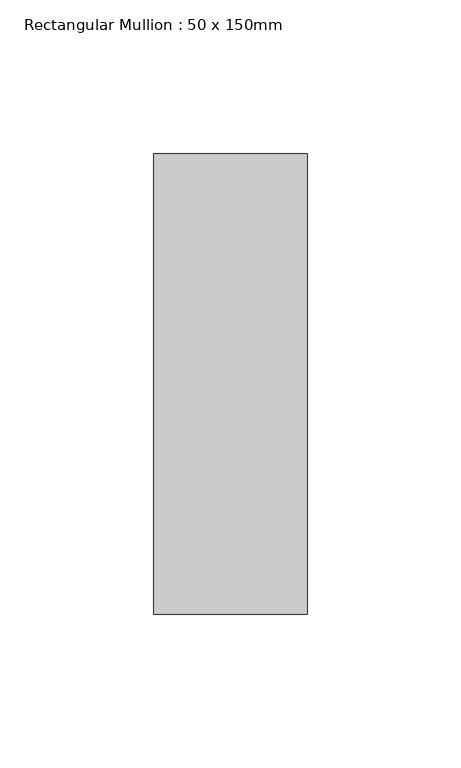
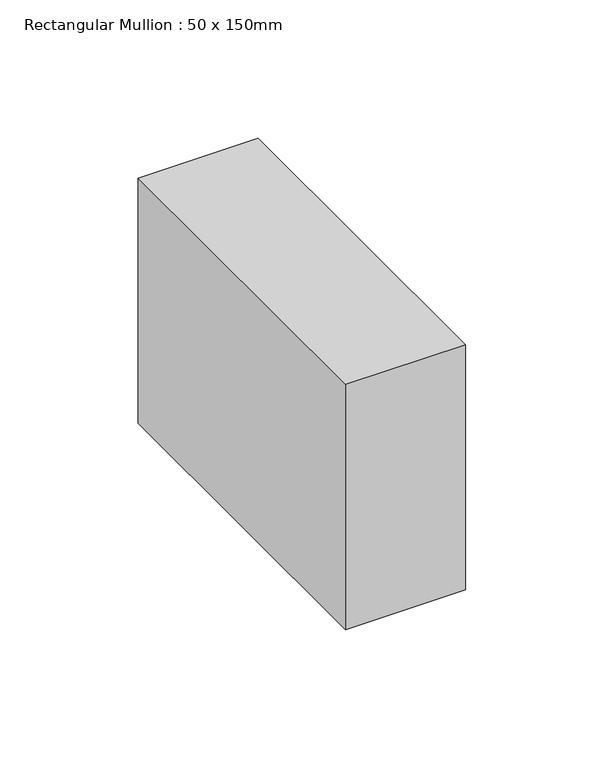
"""IFC4 building model written with IfcOpenShell, lengths in millimetres: member geometry, Rectangular Mullion : 50 x 150mm."""

import ifcopenshell
import ifcopenshell.guid

model = None  # the IFC model being written
_history = None  # IfcOwnerHistory: only IFC2X3 demands one
_inside = {}  # id of a spatial element -> (the spatial element, [elements in it])
_under = {}  # id of a project, library or spatial element -> (it, [spatial elements below it])
_declared = {}  # id of a project -> (the project, [libraries it declares])
_typed = {}  # id of a type object -> (the type object, [elements of that type])
_made_of = {}  # id of a material, layer set ... -> (it, [elements and type objects made of it])


def new_model(schema):
    """Start an empty IFC model of exactly this schema.

    Asked for "IFC4X3", IfcOpenShell would pick the latest addendum, in which some entities
    have other attributes; the version numbers below select the first issue.
    IFC2X3 requires an IfcOwnerHistory on every rooted entity: one is made here for all.
    """
    global model, _history
    if schema == "IFC4X3":
        model = ifcopenshell.file(schema_version=(4, 3, 0, 0))
    else:
        model = ifcopenshell.file(schema=schema)
    _inside.clear()
    _under.clear()
    _declared.clear()
    _typed.clear()
    _made_of.clear()
    _history = None
    if model.schema == "IFC2X3":
        org = make("IfcOrganization", Name="unknown")
        user = make(
            "IfcPersonAndOrganization",
            ThePerson=make("IfcPerson", FamilyName="unknown"),
            TheOrganization=org,
        )
        app = make(
            "IfcApplication",
            ApplicationDeveloper=org,
            Version="unknown",
            ApplicationFullName="unknown",
            ApplicationIdentifier="unknown",
        )
        _history = make(
            "IfcOwnerHistory",
            OwningUser=user,
            OwningApplication=app,
            ChangeAction="ADDED",
            CreationDate=0,
        )
    return model


def make(cls, **values):
    """One entity of the class cls with the attributes given. An attribute that is None is left unset."""
    return model.create_entity(
        cls, **{name: value for name, value in values.items() if value is not None}
    )


def rooted(cls, **values):
    """An entity with a GlobalId (a new one), such as an element, a storey or a relation."""
    return make(cls, GlobalId=ifcopenshell.guid.new(), OwnerHistory=_history, **values)


def si_unit(unit_type, name, prefix=None):
    """IfcSIUnit, for example si_unit("LENGTHUNIT", "METRE", prefix="MILLI")."""
    return make("IfcSIUnit", UnitType=unit_type, Prefix=prefix, Name=name)


def assignment(units):
    """IfcUnitAssignment: the units of a project."""
    return None if units is None else make("IfcUnitAssignment", Units=units)


def point(xyz):
    """IfcCartesianPoint."""
    return None if xyz is None else make("IfcCartesianPoint", Coordinates=xyz)


def direction(xyz):
    """IfcDirection."""
    return None if xyz is None else make("IfcDirection", DirectionRatios=xyz)


def frame(location, z_axis=None, x_axis=None):
    """IfcAxis2Placement3D, a coordinate frame: its origin and axes. An axis left out is left unset."""
    return make(
        "IfcAxis2Placement3D",
        Location=point(location),
        Axis=direction(z_axis),
        RefDirection=direction(x_axis),
    )


def origin():
    """The frame at (0, 0, 0) with its axes left unset."""
    return frame((0.0, 0.0, 0.0))


def place(relative_to, where):
    """IfcLocalPlacement: puts the frame where relative to a parent placement (None: the world)."""
    return make(
        "IfcLocalPlacement", PlacementRelTo=relative_to, RelativePlacement=where
    )


def context(
    kind, dimensions, precision=None, world=None, true_north=None, identifier=None
):
    """IfcGeometricRepresentationContext, for example the 3D "Model" context."""
    return make(
        "IfcGeometricRepresentationContext",
        ContextIdentifier=identifier,
        ContextType=kind,
        CoordinateSpaceDimension=dimensions,
        Precision=precision,
        WorldCoordinateSystem=world,
        TrueNorth=true_north,
    )


def project(units=None, contexts=None):
    """IfcProject with its units and contexts."""
    return rooted(
        "IfcProject",
        Name="project",
        RepresentationContexts=contexts,
        UnitsInContext=assignment(units),
    )


def spatial(cls, under=None, at=None, **own):
    """A site, building, storey or space (cls), placed at a placement, below another one or the project."""
    s = rooted(cls, ObjectPlacement=at, **own)
    if under is not None:
        _under.setdefault(under.id(), (under, []))[1].append(s)
    return s


def polyline(points):
    """IfcPolyline through the points."""
    return make("IfcPolyline", Points=[point(p) for p in points])


def outline(outer, holes=None, kind="AREA"):
    """IfcArbitraryClosedProfileDef: a profile drawn as a closed curve; with holes, ...WithVoids."""
    if holes is None:
        return make("IfcArbitraryClosedProfileDef", ProfileType=kind, OuterCurve=outer)
    return make(
        "IfcArbitraryProfileDefWithVoids",
        ProfileType=kind,
        OuterCurve=outer,
        InnerCurves=holes,
    )


def extrude(swept, where, along, depth):
    """IfcExtrudedAreaSolid: the profile swept, set in the frame where, extruded along a direction by depth."""
    return make(
        "IfcExtrudedAreaSolid",
        SweptArea=swept,
        Position=where,
        ExtrudedDirection=direction(along),
        Depth=depth,
    )


def shape(context_of_items, identifier, shape_type, items):
    """IfcShapeRepresentation: the items that make up one representation, for example the "Body"."""
    return make(
        "IfcShapeRepresentation",
        ContextOfItems=context_of_items,
        RepresentationIdentifier=identifier,
        RepresentationType=shape_type,
        Items=items,
    )


def source(mapping_origin, context_of_items, identifier, shape_type, items):
    """IfcRepresentationMap: a shape defined once, which mapped items show again and again."""
    return make(
        "IfcRepresentationMap",
        MappingOrigin=mapping_origin,
        MappedRepresentation=shape(context_of_items, identifier, shape_type, items),
    )


def transform(
    local_origin,
    x_axis=None,
    y_axis=None,
    z_axis=None,
    scale=None,
    scale2=None,
    scale3=None,
    uniform=True,
):
    """IfcCartesianTransformationOperator3D, or its non-uniform kind. x_axis, y_axis, z_axis: its Axis1, 2, 3."""
    if uniform:
        return make(
            "IfcCartesianTransformationOperator3D",
            Axis1=direction(x_axis),
            Axis2=direction(y_axis),
            LocalOrigin=point(local_origin),
            Scale=scale,
            Axis3=direction(z_axis),
        )
    return make(
        "IfcCartesianTransformationOperator3DnonUniform",
        Axis1=direction(x_axis),
        Axis2=direction(y_axis),
        LocalOrigin=point(local_origin),
        Scale=scale,
        Axis3=direction(z_axis),
        Scale2=scale2,
        Scale3=scale3,
    )


def mapped(mapping_source, mapping_target):
    """IfcMappedItem: shows the shape of a source again, moved by a transform."""
    return make(
        "IfcMappedItem", MappingSource=mapping_source, MappingTarget=mapping_target
    )


def made_of(thing, what):
    """Note that an element or type object is made of a material, layer set ...; save() writes the relation."""
    if what is not None:
        _made_of.setdefault(what.id(), (what, []))[1].append(thing)
    return thing


def element(
    cls,
    number,
    at=None,
    inside=None,
    cuts=None,
    type_object=None,
    material=None,
    context=None,
    identifier="Body",
    shape_type=None,
    held_by="IfcProductDefinitionShape",
    body=None,
    shapes=None,
    **own,
):
    """One element of the class cls, such as IfcWall. Its Tag is "e" and its number.

    at: its placement. inside: the storey or other place that contains it. cuts: it is an
    opening in that element (IfcRelVoidsElement). A single representation is given by context,
    identifier, shape_type and body (its items); several are given by shapes. held_by: the class
    of the entity that holds the representations. save() writes the other relations.
    """
    e = rooted(cls, Tag="e%d" % number, ObjectPlacement=at, **own)
    if body is not None:
        shapes = [shape(context, identifier, shape_type, body)]
    if shapes is not None:
        e.Representation = make(held_by, Representations=shapes)
    if inside is not None:
        _inside.setdefault(inside.id(), (inside, []))[1].append(e)
    if cuts is not None:
        rooted(
            "IfcRelVoidsElement", RelatingBuildingElement=cuts, RelatedOpeningElement=e
        )
    if type_object is not None:
        _typed.setdefault(type_object.id(), (type_object, []))[1].append(e)
    return made_of(e, material)


def aggregate(whole, parts):
    """IfcRelAggregates: a whole, such as a stair, and the parts it consists of."""
    return rooted("IfcRelAggregates", RelatingObject=whole, RelatedObjects=parts)


def save(model, path):
    """Write the relations noted so far, then the file.

    IfcRelAggregates (storeys below a building ...), IfcRelContainedInSpatialStructure (elements
    in a storey), IfcRelDefinesByType, IfcRelAssociatesMaterial and IfcRelDeclares: one each for
    every whole, place, type object, material and project.
    """
    for whole, parts in _under.values():
        aggregate(whole, parts)
    for where, things in _inside.values():
        rooted(
            "IfcRelContainedInSpatialStructure",
            RelatedElements=things,
            RelatingStructure=where,
        )
    for kind, things in _typed.values():
        rooted("IfcRelDefinesByType", RelatedObjects=things, RelatingType=kind)
    for what, things in _made_of.values():
        rooted("IfcRelAssociatesMaterial", RelatedObjects=things, RelatingMaterial=what)
    for by, libraries in _declared.values():
        rooted("IfcRelDeclares", RelatingContext=by, RelatedDefinitions=libraries)
    model.write(path)


def rectangular_mullion_50_x_150mm_a8ea6182(model_context):
    return source(origin(), model_context, "Body", "SweptSolid", [
        extrude(outline(polyline([(0.0, 75.0), (0.0, -75.0), (-50.0, -75.0), (-50.0, 75.0), (0.0, 75.0)])), frame((0.0, 0.0, -108.25), z_axis=(0.0, 0.0, 1.0), x_axis=(1.0, 0.0, 0.0)), (0.0, 0.0, 1.0), 108.25),
    ])


if __name__ == "__main__":
    model = new_model("IFC4")
    model_context = context("Model", 3, world=origin())
    ifc_project = project(units=[si_unit("LENGTHUNIT", "METRE", prefix="MILLI")], contexts=[model_context])
    site = spatial("IfcSite", under=ifc_project)
    building = spatial("IfcBuilding", under=site)
    placement = place(None, origin())
    rectangular_mullion_50_x_150mm_shape = rectangular_mullion_50_x_150mm_a8ea6182(model_context)
    element("IfcMember", 1, ObjectType="Rectangular Mullion : 50 x 150mm", at=placement, inside=building, context=model_context, shape_type="MappedRepresentation", body=[
        mapped(rectangular_mullion_50_x_150mm_shape, transform((0.0, 0.0, 0.0), x_axis=(1.0, 0.0, 0.0), y_axis=(0.0, 1.0, 0.0), z_axis=(0.0, 0.0, 1.0))),
    ])
    save(model, "model.ifc")
